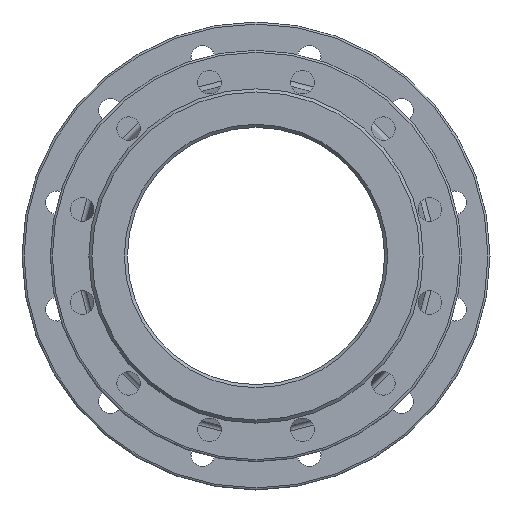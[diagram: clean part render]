
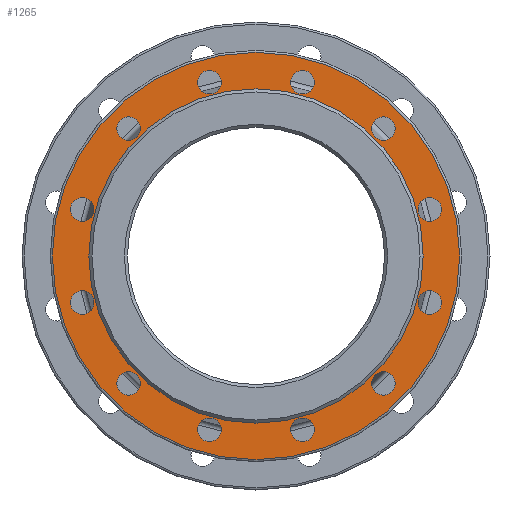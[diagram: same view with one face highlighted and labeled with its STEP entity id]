
A CAD part, left-side view. The second image highlights one B-rep face of the part: STEP entity #1265.
In plain terms, the highlighted planar face has unit normal (-1, 0, 0).
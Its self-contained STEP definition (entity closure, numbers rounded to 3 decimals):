
#2 = CARTESIAN_POINT ( 'NONE',  ( -147., 45.293, -169.037 ) ) ;
#3 = ORIENTED_EDGE ( 'NONE', *, *, #1456, .F. ) ;
#32 = VERTEX_POINT ( 'NONE', #788 ) ;
#36 = EDGE_LOOP ( 'NONE', ( #575 ) ) ;
#48 = AXIS2_PLACEMENT_3D ( 'NONE', #3084, #2332, #1903 ) ;
#52 = DIRECTION ( 'NONE',  ( 0., 0., 1. ) ) ;
#81 = DIRECTION ( 'NONE',  ( 0., 0., 1. ) ) ;
#96 = CARTESIAN_POINT ( 'NONE',  ( -147., -169.037, -33.793 ) ) ;
#154 = FACE_OUTER_BOUND ( 'NONE', #641, .T. ) ;
#155 = CIRCLE ( 'NONE', #1798, 11.5 ) ;
#160 = ORIENTED_EDGE ( 'NONE', *, *, #162, .F. ) ;
#162 = EDGE_CURVE ( 'NONE', #32, #32, #2479, .T. ) ;
#186 = FACE_BOUND ( 'NONE', #1578, .T. ) ;
#195 = DIRECTION ( 'NONE',  ( -1., 0., 0. ) ) ;
#229 = ORIENTED_EDGE ( 'NONE', *, *, #246, .F. ) ;
#246 = EDGE_CURVE ( 'NONE', #1054, #1054, #2621, .T. ) ;
#258 = ORIENTED_EDGE ( 'NONE', *, *, #2871, .F. ) ;
#265 = AXIS2_PLACEMENT_3D ( 'NONE', #2541, #1334, #81 ) ;
#286 = DIRECTION ( 'NONE',  ( 0., 0., 1. ) ) ;
#296 = EDGE_LOOP ( 'NONE', ( #351 ) ) ;
#306 = VERTEX_POINT ( 'NONE', #2484 ) ;
#334 = VERTEX_POINT ( 'NONE', #1096 ) ;
#348 = DIRECTION ( 'NONE',  ( 0., 0., 1. ) ) ;
#351 = ORIENTED_EDGE ( 'NONE', *, *, #2392, .F. ) ;
#362 = DIRECTION ( 'NONE',  ( -1., 0., 0. ) ) ;
#398 = CIRCLE ( 'NONE', #1315, 11.5 ) ;
#400 = AXIS2_PLACEMENT_3D ( 'NONE', #2213, #2162, #1701 ) ;
#404 = ORIENTED_EDGE ( 'NONE', *, *, #1137, .F. ) ;
#430 = DIRECTION ( 'NONE',  ( -1., 0., 0. ) ) ;
#476 = DIRECTION ( 'NONE',  ( 0., 0., 1. ) ) ;
#509 = DIRECTION ( 'NONE',  ( -1., 0., 0. ) ) ;
#529 = CIRCLE ( 'NONE', #2521, 11.5 ) ;
#536 = AXIS2_PLACEMENT_3D ( 'NONE', #1655, #195, #1592 ) ;
#575 = ORIENTED_EDGE ( 'NONE', *, *, #2459, .F. ) ;
#602 = VERTEX_POINT ( 'NONE', #2062 ) ;
#641 = EDGE_LOOP ( 'NONE', ( #1840 ) ) ;
#646 = CIRCLE ( 'NONE', #1407, 11.5 ) ;
#690 = FACE_BOUND ( 'NONE', #2764, .T. ) ;
#707 = DIRECTION ( 'NONE',  ( 0., 0., 1. ) ) ;
#715 = ORIENTED_EDGE ( 'NONE', *, *, #1062, .F. ) ;
#737 = EDGE_CURVE ( 'NONE', #2724, #2724, #1995, .T. ) ;
#788 = CARTESIAN_POINT ( 'NONE',  ( -147., 169.037, 56.793 ) ) ;
#915 = DIRECTION ( 'NONE',  ( 0., 0., 1. ) ) ;
#917 = VERTEX_POINT ( 'NONE', #1833 ) ;
#925 = FACE_BOUND ( 'NONE', #36, .T. ) ;
#936 = CARTESIAN_POINT ( 'NONE',  ( -147., -169.037, -45.293 ) ) ;
#959 = CIRCLE ( 'NONE', #1059, 11.5 ) ;
#962 = CARTESIAN_POINT ( 'NONE',  ( -147., -123.744, -123.744 ) ) ;
#1030 = AXIS2_PLACEMENT_3D ( 'NONE', #3056, #1074, #348 ) ;
#1054 = VERTEX_POINT ( 'NONE', #96 ) ;
#1059 = AXIS2_PLACEMENT_3D ( 'NONE', #2930, #509, #286 ) ;
#1062 = EDGE_CURVE ( 'NONE', #2706, #2706, #2139, .T. ) ;
#1074 = DIRECTION ( 'NONE',  ( -1., 0., 0. ) ) ;
#1090 = AXIS2_PLACEMENT_3D ( 'NONE', #936, #1705, #1912 ) ;
#1096 = CARTESIAN_POINT ( 'NONE',  ( -147., 0., 198. ) ) ;
#1128 = FACE_BOUND ( 'NONE', #2729, .T. ) ;
#1137 = EDGE_CURVE ( 'NONE', #306, #306, #1439, .T. ) ;
#1174 = FACE_BOUND ( 'NONE', #2009, .T. ) ;
#1228 = ORIENTED_EDGE ( 'NONE', *, *, #1969, .F. ) ;
#1229 = ORIENTED_EDGE ( 'NONE', *, *, #737, .F. ) ;
#1245 = CARTESIAN_POINT ( 'NONE',  ( -147., -123.744, 135.244 ) ) ;
#1265 = ADVANCED_FACE ( 'NONE', ( #1614, #186, #1174, #925, #2159, #1370, #1662, #1128, #2377, #3137, #1630, #690, #154, #2108 ), #3069, .T. ) ;
#1315 = AXIS2_PLACEMENT_3D ( 'NONE', #3034, #2253, #2549 ) ;
#1318 = EDGE_CURVE ( 'NONE', #1487, #1487, #2704, .T. ) ;
#1320 = ORIENTED_EDGE ( 'NONE', *, *, #2733, .F. ) ;
#1321 = DIRECTION ( 'NONE',  ( 0., 0., 1. ) ) ;
#1334 = DIRECTION ( 'NONE',  ( -1., 0., 0. ) ) ;
#1370 = FACE_BOUND ( 'NONE', #2214, .T. ) ;
#1392 = VERTEX_POINT ( 'NONE', #2894 ) ;
#1407 = AXIS2_PLACEMENT_3D ( 'NONE', #1983, #2961, #1500 ) ;
#1437 = DIRECTION ( 'NONE',  ( -1., 0., 0. ) ) ;
#1439 = CIRCLE ( 'NONE', #2411, 11.5 ) ;
#1456 = EDGE_CURVE ( 'NONE', #2270, #2270, #529, .T. ) ;
#1470 = ORIENTED_EDGE ( 'NONE', *, *, #2519, .F. ) ;
#1487 = VERTEX_POINT ( 'NONE', #2467 ) ;
#1500 = DIRECTION ( 'NONE',  ( 0., 0., 1. ) ) ;
#1509 = EDGE_LOOP ( 'NONE', ( #1470 ) ) ;
#1559 = EDGE_CURVE ( 'NONE', #334, #334, #2936, .T. ) ;
#1578 = EDGE_LOOP ( 'NONE', ( #715 ) ) ;
#1592 = DIRECTION ( 'NONE',  ( 0., 0., 1. ) ) ;
#1614 = FACE_BOUND ( 'NONE', #2471, .T. ) ;
#1630 = FACE_BOUND ( 'NONE', #2598, .T. ) ;
#1655 = CARTESIAN_POINT ( 'NONE',  ( -147., 169.037, 45.293 ) ) ;
#1662 = FACE_BOUND ( 'NONE', #3030, .T. ) ;
#1691 = EDGE_LOOP ( 'NONE', ( #3060 ) ) ;
#1696 = DIRECTION ( 'NONE',  ( -1., 0., 0. ) ) ;
#1701 = DIRECTION ( 'NONE',  ( 0., 0., 1. ) ) ;
#1705 = DIRECTION ( 'NONE',  ( -1., 0., 0. ) ) ;
#1798 = AXIS2_PLACEMENT_3D ( 'NONE', #962, #1696, #476 ) ;
#1833 = CARTESIAN_POINT ( 'NONE',  ( -147., 0., 162.5 ) ) ;
#1840 = ORIENTED_EDGE ( 'NONE', *, *, #1559, .T. ) ;
#1899 = CIRCLE ( 'NONE', #265, 11.5 ) ;
#1903 = DIRECTION ( 'NONE',  ( 0., 0., 1. ) ) ;
#1912 = DIRECTION ( 'NONE',  ( 0., 0., 1. ) ) ;
#1969 = EDGE_CURVE ( 'NONE', #2298, #2298, #398, .T. ) ;
#1983 = CARTESIAN_POINT ( 'NONE',  ( -147., -169.037, 45.293 ) ) ;
#1988 = CARTESIAN_POINT ( 'NONE',  ( -147., 169.037, -33.793 ) ) ;
#1995 = CIRCLE ( 'NONE', #2505, 11.5 ) ;
#2009 = EDGE_LOOP ( 'NONE', ( #160 ) ) ;
#2036 = CARTESIAN_POINT ( 'NONE',  ( -147., 45.293, -157.537 ) ) ;
#2062 = CARTESIAN_POINT ( 'NONE',  ( -147., -45.293, -157.537 ) ) ;
#2094 = DIRECTION ( 'NONE',  ( -1., 0., 0. ) ) ;
#2108 = FACE_BOUND ( 'NONE', #1509, .T. ) ;
#2128 = CARTESIAN_POINT ( 'NONE',  ( -147., -123.744, 123.744 ) ) ;
#2139 = CIRCLE ( 'NONE', #400, 11.5 ) ;
#2148 = DIRECTION ( 'NONE',  ( -1., 0., 0. ) ) ;
#2159 = FACE_BOUND ( 'NONE', #1691, .T. ) ;
#2162 = DIRECTION ( 'NONE',  ( -1., 0., 0. ) ) ;
#2213 = CARTESIAN_POINT ( 'NONE',  ( -147., 169.037, -45.293 ) ) ;
#2214 = EDGE_LOOP ( 'NONE', ( #1228 ) ) ;
#2253 = DIRECTION ( 'NONE',  ( -1., 0., 0. ) ) ;
#2270 = VERTEX_POINT ( 'NONE', #2036 ) ;
#2298 = VERTEX_POINT ( 'NONE', #2383 ) ;
#2312 = VERTEX_POINT ( 'NONE', #2367 ) ;
#2332 = DIRECTION ( 'NONE',  ( -1., 0., 0. ) ) ;
#2353 = CIRCLE ( 'NONE', #2465, 162.5 ) ;
#2361 = CARTESIAN_POINT ( 'NONE',  ( -147., 45.293, 169.037 ) ) ;
#2367 = CARTESIAN_POINT ( 'NONE',  ( -147., 123.744, 135.244 ) ) ;
#2377 = FACE_BOUND ( 'NONE', #2789, .T. ) ;
#2383 = CARTESIAN_POINT ( 'NONE',  ( -147., -45.293, 180.537 ) ) ;
#2392 = EDGE_CURVE ( 'NONE', #1392, #1392, #155, .T. ) ;
#2411 = AXIS2_PLACEMENT_3D ( 'NONE', #2695, #430, #3124 ) ;
#2459 = EDGE_CURVE ( 'NONE', #2312, #2312, #1899, .T. ) ;
#2465 = AXIS2_PLACEMENT_3D ( 'NONE', #2513, #362, #1321 ) ;
#2467 = CARTESIAN_POINT ( 'NONE',  ( -147., 45.293, 180.537 ) ) ;
#2471 = EDGE_LOOP ( 'NONE', ( #404 ) ) ;
#2479 = CIRCLE ( 'NONE', #536, 11.5 ) ;
#2484 = CARTESIAN_POINT ( 'NONE',  ( -147., 123.744, -112.244 ) ) ;
#2505 = AXIS2_PLACEMENT_3D ( 'NONE', #2128, #2148, #915 ) ;
#2513 = CARTESIAN_POINT ( 'NONE',  ( -147., 0., 0. ) ) ;
#2519 = EDGE_CURVE ( 'NONE', #917, #917, #2353, .T. ) ;
#2521 = AXIS2_PLACEMENT_3D ( 'NONE', #2, #1437, #52 ) ;
#2541 = CARTESIAN_POINT ( 'NONE',  ( -147., 123.744, 123.744 ) ) ;
#2549 = DIRECTION ( 'NONE',  ( 0., 0., 1. ) ) ;
#2598 = EDGE_LOOP ( 'NONE', ( #1320 ) ) ;
#2611 = VERTEX_POINT ( 'NONE', #2643 ) ;
#2621 = CIRCLE ( 'NONE', #1090, 11.5 ) ;
#2643 = CARTESIAN_POINT ( 'NONE',  ( -147., -169.037, 56.793 ) ) ;
#2695 = CARTESIAN_POINT ( 'NONE',  ( -147., 123.744, -123.744 ) ) ;
#2704 = CIRCLE ( 'NONE', #2965, 11.5 ) ;
#2706 = VERTEX_POINT ( 'NONE', #1988 ) ;
#2724 = VERTEX_POINT ( 'NONE', #1245 ) ;
#2729 = EDGE_LOOP ( 'NONE', ( #258 ) ) ;
#2733 = EDGE_CURVE ( 'NONE', #602, #602, #959, .T. ) ;
#2764 = EDGE_LOOP ( 'NONE', ( #3 ) ) ;
#2789 = EDGE_LOOP ( 'NONE', ( #229 ) ) ;
#2871 = EDGE_CURVE ( 'NONE', #2611, #2611, #646, .T. ) ;
#2894 = CARTESIAN_POINT ( 'NONE',  ( -147., -123.744, -112.244 ) ) ;
#2930 = CARTESIAN_POINT ( 'NONE',  ( -147., -45.293, -169.037 ) ) ;
#2936 = CIRCLE ( 'NONE', #1030, 198. ) ;
#2961 = DIRECTION ( 'NONE',  ( -1., 0., 0. ) ) ;
#2965 = AXIS2_PLACEMENT_3D ( 'NONE', #2361, #2094, #707 ) ;
#3030 = EDGE_LOOP ( 'NONE', ( #1229 ) ) ;
#3034 = CARTESIAN_POINT ( 'NONE',  ( -147., -45.293, 169.037 ) ) ;
#3056 = CARTESIAN_POINT ( 'NONE',  ( -147., 0., 0. ) ) ;
#3060 = ORIENTED_EDGE ( 'NONE', *, *, #1318, .F. ) ;
#3069 = PLANE ( 'NONE',  #48 ) ;
#3084 = CARTESIAN_POINT ( 'NONE',  ( -147., 0., 0. ) ) ;
#3124 = DIRECTION ( 'NONE',  ( 0., 0., 1. ) ) ;
#3137 = FACE_BOUND ( 'NONE', #296, .T. ) ;
